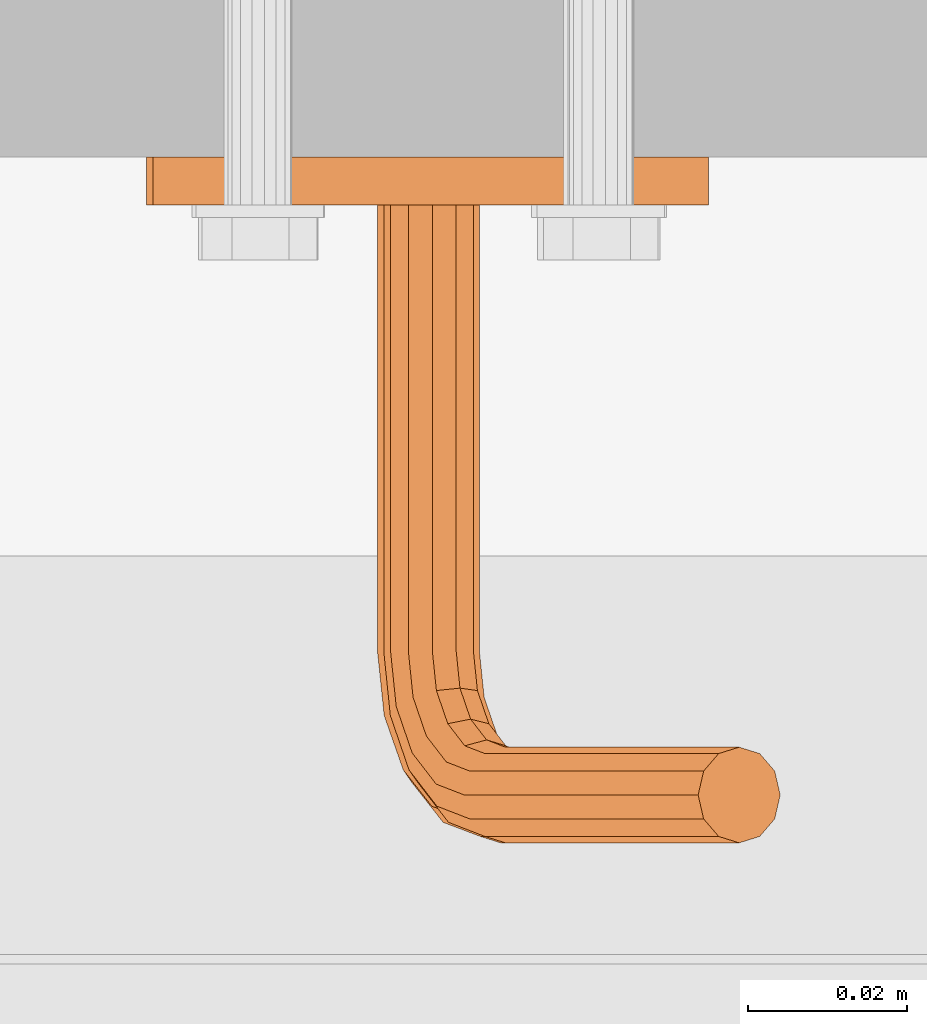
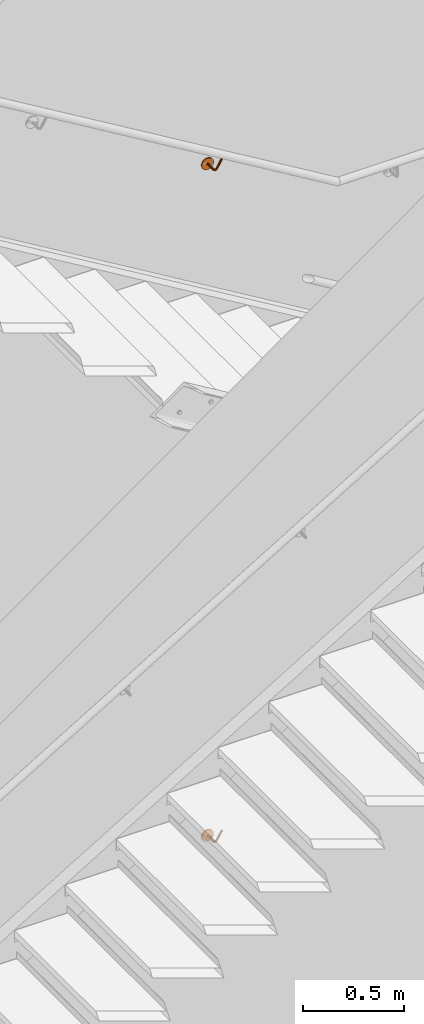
# One storey, part 394 of 410: 2 proxies.
"""IFC2X3 building model written with IfcOpenShell, lengths in millimetres."""

from ifc_helpers import new_model, entity, si_unit, converted_unit, origin_with_axes, place, context, project, spatial, faceted_brep, element, save


model = new_model("IFC2X3")

# Units and contexts
model_context = context("Model", 3, precision=1e-09, world=origin_with_axes())
ifc_project = project(units=[si_unit("LENGTHUNIT", "METRE", prefix="MILLI"), si_unit("AREAUNIT", "SQUARE_METRE"), si_unit("VOLUMEUNIT", "CUBIC_METRE"), converted_unit("PLANEANGLEUNIT", "DEGREE", entity("IfcPlaneAngleMeasure", 0.01745329), si_unit("PLANEANGLEUNIT", "RADIAN"), dimensions=[0, 0, 0, 0, 0, 0, 0])], contexts=[model_context])

# Site, building, storey
site_placement = place(None, origin_with_axes())
site = spatial("IfcSite", under=ifc_project, at=site_placement, Name="mKR Teilneubau & Sanierung BA1 - Ostfildern", CompositionType="ELEMENT")
building_placement = place(site_placement, origin_with_axes())
building = spatial("IfcBuilding", under=site, at=building_placement, Name="Struktur 1", CompositionType="ELEMENT")
storey_placement = place(building_placement, origin_with_axes())
storey = spatial("IfcBuildingStorey", under=building, at=storey_placement, Name="Default Storey", CompositionType="ELEMENT", Elevation=0.0)

# Proxies
proxy_1_placement = place(None, origin_with_axes())
element("IfcBuildingElementProxy", 1, at=proxy_1_placement, inside=storey, ObjectType="-", context=model_context, shape_type="Brep", body=[
    faceted_brep([(1047.922447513, 18620.000061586, 3064.657180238), (1047.922447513, 18614.000061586, 3064.657180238), (1046.341231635, 18614.000061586, 3063.127608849), (1046.341231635, 18620.000061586, 3063.127608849), (1102.913145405, 18614.000061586, 3063.367246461), (1096.244679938, 18614.000061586, 3072.762954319), (1086.88674897, 18614.000061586, 3079.484329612), (1075.853429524, 18614.000061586, 3082.803007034), (1064.340352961, 18614.000061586, 3082.359356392), (1053.595139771, 18614.000061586, 3078.201454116), (1044.782200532, 18614.000061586, 3070.779873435), (1038.856553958, 18614.000061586, 3060.898857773), (1036.4603358, 18614.000061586, 3049.629168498), (1037.853213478, 18614.000061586, 3038.192051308), (1042.884247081, 18614.000061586, 3027.826895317), (1051.008246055, 18614.000061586, 3019.656926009), (1061.344849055, 18614.000061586, 3014.567486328), (1072.773924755, 18614.000061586, 3013.110096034), (1084.056955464, 18614.000061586, 3015.442685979), (1093.97124973, 18614.000061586, 3021.31248385), (1101.442439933, 18614.000061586, 3030.083405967), (1105.660906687, 18614.000061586, 3040.804986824), (1106.169513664, 18614.000061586, 3052.315376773), (1090.802765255, 18614.000061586, 3038.941847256), (1092.936924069, 18614.000061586, 3039.475886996), (1095.052179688, 18614.000061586, 3038.871299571), (1096.581751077, 18614.000061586, 3037.290083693), (1097.115790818, 18614.000061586, 3035.155924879), (1096.511203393, 18614.000061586, 3033.04066926), (1094.929987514, 18614.000061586, 3031.511097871), (1092.7958287, 18614.000061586, 3030.97705813), (1090.680573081, 18614.000061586, 3031.581645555), (1089.151001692, 18614.000061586, 3033.162861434), (1088.616961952, 18614.000061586, 3035.297020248), (1089.221549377, 18614.000061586, 3037.412275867), (1050.056606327, 18614.000061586, 3065.191219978), (1052.171861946, 18614.000061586, 3064.586632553), (1053.701433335, 18614.000061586, 3063.005416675), (1054.235473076, 18614.000061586, 3060.871257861), (1053.630885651, 18614.000061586, 3058.756002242), (1052.049669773, 18614.000061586, 3057.226430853), (1049.915510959, 18614.000061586, 3056.692391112), (1047.80025534, 18614.000061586, 3057.296978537), (1046.27068395, 18614.000061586, 3058.878194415), (1045.73664421, 18614.000061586, 3061.01235323), (1050.056606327, 18620.000061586, 3065.191219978), (1072.773924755, 18620.000061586, 3013.110096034), (1061.344849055, 18620.000061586, 3014.567486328), (1051.008246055, 18620.000061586, 3019.656926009), (1042.884247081, 18620.000061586, 3027.826895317), (1037.853213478, 18620.000061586, 3038.192051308), (1036.4603358, 18620.000061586, 3049.629168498), (1038.856553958, 18620.000061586, 3060.898857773), (1044.782200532, 18620.000061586, 3070.779873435), (1053.595139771, 18620.000061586, 3078.201454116), (1064.340352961, 18620.000061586, 3082.359356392), (1075.853429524, 18620.000061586, 3082.803007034), (1086.88674897, 18620.000061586, 3079.484329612), (1096.244679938, 18620.000061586, 3072.762954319), (1102.913145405, 18620.000061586, 3063.367246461), (1106.169513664, 18620.000061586, 3052.315376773), (1105.660906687, 18620.000061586, 3040.804986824), (1101.442439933, 18620.000061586, 3030.083405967), (1093.97124973, 18620.000061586, 3021.31248385), (1084.056955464, 18620.000061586, 3015.442685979), (1088.616961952, 18620.000061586, 3035.297020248), (1089.151001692, 18620.000061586, 3033.162861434), (1090.680573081, 18620.000061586, 3031.581645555), (1092.7958287, 18620.000061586, 3030.97705813), (1094.929987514, 18620.000061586, 3031.511097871), (1096.511203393, 18620.000061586, 3033.04066926), (1097.115790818, 18620.000061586, 3035.155924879), (1096.581751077, 18620.000061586, 3037.290083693), (1095.052179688, 18620.000061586, 3038.871299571), (1092.936924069, 18620.000061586, 3039.475886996), (1090.802765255, 18620.000061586, 3038.941847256), (1089.221549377, 18620.000061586, 3037.412275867), (1045.73664421, 18620.000061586, 3061.01235323), (1046.27068395, 18620.000061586, 3058.878194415), (1047.80025534, 18620.000061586, 3057.296978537), (1049.915510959, 18620.000061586, 3056.692391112), (1052.049669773, 18620.000061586, 3057.226430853), (1053.630885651, 18620.000061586, 3058.756002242), (1054.235473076, 18620.000061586, 3060.871257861), (1053.701433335, 18620.000061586, 3063.005416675), (1052.171861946, 18620.000061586, 3064.586632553)], [[[0, 1, 2, 3]], [[4, 5, 6, 7, 8, 9, 10, 11, 12, 13, 14, 15, 16, 17, 18, 19, 20, 21, 22], [23, 24, 25, 26, 27, 28, 29, 30, 31, 32, 33, 34], [2, 1, 35, 36, 37, 38, 39, 40, 41, 42, 43, 44]], [[1, 0, 45, 35]], [[46, 47, 48, 49, 50, 51, 52, 53, 54, 55, 56, 57, 58, 59, 60, 61, 62, 63, 64], [65, 66, 67, 68, 69, 70, 71, 72, 73, 74, 75, 76], [0, 3, 77, 78, 79, 80, 81, 82, 83, 84, 85, 45]], [[3, 2, 44, 77]], [[10, 53, 52, 11]], [[77, 44, 43, 78]], [[35, 45, 85, 36]], [[53, 10, 9, 54]], [[78, 43, 42, 79]], [[11, 52, 51, 12]], [[36, 85, 84, 37]], [[8, 55, 54, 9]], [[79, 42, 41, 80]], [[55, 8, 7, 56]], [[50, 13, 12, 51]], [[37, 84, 83, 38]], [[13, 50, 49, 14]], [[80, 41, 40, 81]], [[38, 83, 82, 39]], [[56, 7, 6, 57]], [[81, 40, 39, 82]], [[14, 49, 48, 15]], [[57, 6, 5, 58]], [[34, 76, 75, 23]], [[15, 48, 47, 16]], [[76, 34, 33, 65]], [[23, 75, 74, 24]], [[58, 5, 4, 59]], [[16, 47, 46, 17]], [[65, 33, 32, 66]], [[24, 74, 73, 25]], [[59, 4, 22, 60]], [[17, 46, 64, 18]], [[66, 32, 31, 67]], [[25, 73, 72, 26]], [[60, 22, 21, 61]], [[18, 64, 63, 19]], [[67, 31, 30, 68]], [[20, 62, 61, 21]], [[26, 72, 71, 27]], [[62, 20, 19, 63]], [[68, 30, 29, 69]], [[27, 71, 70, 28]], [[69, 29, 28, 70]]]),
    faceted_brep([(1076.571855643, 18558.000061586, 3044.998299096), (1076.571855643, 18614.000061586, 3044.998299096), (1077.425390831, 18614.000061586, 3047.984542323), (1077.425390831, 18558.000061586, 3047.984542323), (1085.139990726, 18537.000061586, 3060.848637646), (1114.455470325, 18537.000061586, 3109.732199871), (1112.572036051, 18534.803909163, 3110.861695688), (1083.256556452, 18534.803909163, 3061.978133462), (1085.829375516, 18540.000061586, 3060.435213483), (1115.144855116, 18540.000061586, 3109.318775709), (1078.691167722, 18536.569611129, 3054.365347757), (1081.006841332, 18538.598591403, 3053.956611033), (1066.180982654, 18614.000061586, 3045.170805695), (1065.427044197, 18614.000061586, 3048.183735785), (1066.280579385, 18614.000061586, 3051.169979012), (1068.512884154, 18614.000061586, 3053.329373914), (1071.525814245, 18614.000061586, 3054.083312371), (1074.512057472, 18614.000061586, 3053.229777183), (1076.671452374, 18614.000061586, 3050.997472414), (1074.339550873, 18614.000061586, 3042.838904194), (1071.326620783, 18614.000061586, 3042.084965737), (1068.340377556, 18614.000061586, 3042.938500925), (1074.339550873, 18558.000061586, 3042.838904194), (1078.012629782, 18552.2598101, 3048.963763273), (1077.276542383, 18551.111759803, 3046.173364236), (1107.426397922, 18545.196214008, 3113.947535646), (1105.542963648, 18543.000061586, 3115.077031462), (1104.853578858, 18540.000061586, 3115.490455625), (1105.542963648, 18537.000061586, 3115.077031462), (1107.426397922, 18534.803909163, 3113.947535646), (1109.999216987, 18534.000061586, 3112.404615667), (1114.455470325, 18543.000061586, 3109.732199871), (1112.572036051, 18545.196214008, 3110.861695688), (1109.999216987, 18546.000061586, 3112.404615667), (1082.286676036, 18541.37023, 3054.527762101), (1077.502926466, 18543.150819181, 3048.113832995), (1079.283320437, 18545.272139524, 3049.51966664), (1076.671452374, 18558.000061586, 3050.997472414), (1075.161685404, 18549.963709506, 3044.209813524), (1080.683737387, 18534.000061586, 3063.521053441), (1085.139990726, 18543.000061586, 3060.848637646), (1075.96013808, 18535.826952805, 3055.644451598), (1074.820818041, 18541.59790491, 3047.911539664), (1079.684944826, 18547.393459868, 3051.752348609), (1077.172713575, 18553.100241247, 3051.833325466), (1071.326620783, 18558.000061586, 3042.084965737), (1082.187741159, 18544.141868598, 3055.925761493), (1074.512057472, 18558.000061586, 3053.229777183), (1072.234733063, 18549.123278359, 3043.599242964), (1078.110918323, 18534.803909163, 3065.06397342), (1083.256556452, 18545.196214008, 3061.978133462), (1073.545529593, 18536.569611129, 3057.451187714), (1071.955663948, 18541.029498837, 3048.966990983), (1078.600184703, 18548.946374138, 3054.213633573), (1074.981848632, 18553.407860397, 3054.013153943), (1068.340377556, 18558.000061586, 3042.938500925), (1080.736546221, 18546.170848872, 3057.776016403), (1076.227484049, 18537.000061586, 3066.193469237), (1071.525814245, 18558.000061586, 3054.083312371), (1069.279959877, 18548.815659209, 3044.505254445), (1080.683737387, 18546.000061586, 3063.521053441), (1072.094334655, 18538.598591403, 3059.301442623), (1069.675179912, 18541.59790491, 3050.997379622), (1076.319700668, 18549.514780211, 3056.244022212), (1072.027075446, 18553.100241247, 3054.919165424), (1066.180982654, 18558.000061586, 3045.170805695), (1078.321937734, 18546.913507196, 3059.582752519), (1075.538099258, 18540.000061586, 3066.606893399), (1068.512884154, 18558.000061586, 3053.329373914), (1067.089094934, 18549.123278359, 3046.685082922), (1078.110918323, 18545.196214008, 3065.06397342), (1076.227484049, 18543.000061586, 3066.193469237), (1071.995399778, 18541.37023, 3060.699442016), (1068.590419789, 18543.150819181, 3053.458664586), (1073.454546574, 18548.946374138, 3057.299473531), (1069.100123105, 18552.2598101, 3054.308594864), (1066.280579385, 18558.000061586, 3051.169979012), (1065.427044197, 18558.000061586, 3048.183735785), (1075.590908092, 18546.170848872, 3060.86185636), (1066.249178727, 18549.963709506, 3049.554645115), (1073.275234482, 18544.141868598, 3061.270593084), (1068.992044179, 18545.272139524, 3055.691346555), (1066.985266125, 18551.111759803, 3052.345044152), (1070.772438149, 18547.393459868, 3057.0971802)], [[[0, 1, 2, 3]], [[4, 5, 6, 7]], [[5, 4, 8, 9]], [[4, 7, 10, 11]], [[12, 13, 14, 15, 16, 17, 18, 2, 1, 19, 20, 21]], [[1, 0, 22, 19]], [[0, 3, 23, 24]], [[25, 26, 27, 28, 29, 30, 6, 5, 9, 31, 32, 33]], [[11, 34, 8, 4]], [[35, 36, 34, 11]], [[3, 2, 18, 37]], [[24, 38, 22, 0]], [[36, 35, 38, 24]], [[7, 6, 30, 39]], [[9, 8, 40, 31]], [[7, 39, 41, 10]], [[11, 10, 42, 35]], [[24, 23, 43, 36]], [[3, 37, 44, 23]], [[19, 22, 45, 20]], [[36, 43, 46, 34]], [[34, 46, 40, 8]], [[37, 18, 17, 47]], [[38, 48, 45, 22]], [[35, 42, 48, 38]], [[39, 30, 29, 49]], [[31, 40, 50, 32]], [[39, 49, 51, 41]], [[10, 41, 52, 42]], [[23, 44, 53, 43]], [[37, 47, 54, 44]], [[20, 45, 55, 21]], [[43, 53, 56, 46]], [[46, 56, 50, 40]], [[49, 29, 28, 57]], [[47, 17, 16, 58]], [[48, 59, 55, 45]], [[42, 52, 59, 48]], [[32, 50, 60, 33]], [[49, 57, 61, 51]], [[41, 51, 62, 52]], [[44, 54, 63, 53]], [[47, 58, 64, 54]], [[21, 55, 65, 12]], [[56, 66, 60, 50]], [[53, 63, 66, 56]], [[57, 28, 27, 67]], [[58, 16, 15, 68]], [[59, 69, 65, 55]], [[52, 62, 69, 59]], [[33, 60, 70, 25]], [[26, 71, 67, 27]], [[25, 70, 71, 26]], [[57, 67, 72, 61]], [[51, 61, 73, 62]], [[54, 64, 74, 63]], [[58, 68, 75, 64]], [[14, 76, 68, 15]], [[13, 77, 76, 14]], [[12, 65, 77, 13]], [[66, 78, 70, 60]], [[63, 74, 78, 66]], [[69, 79, 77, 65]], [[62, 73, 79, 69]], [[67, 71, 80, 72]], [[71, 70, 78, 80]], [[61, 72, 81, 73]], [[68, 76, 82, 75]], [[64, 75, 83, 74]], [[76, 77, 79, 82]], [[74, 83, 80, 78]], [[73, 81, 82, 79]], [[72, 80, 83, 81]], [[75, 82, 81, 83]]]),
])
proxy_2_placement = place(None, origin_with_axes())
element("IfcBuildingElementProxy", 2, at=proxy_2_placement, inside=storey, ObjectType="-", context=model_context, shape_type="Brep", body=[
    faceted_brep([(1047.339766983, 18620.000061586, -982.383966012), (1047.339766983, 18614.000061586, -982.383966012), (1045.739854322, 18614.000061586, -983.893969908), (1045.739854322, 18620.000061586, -983.893969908), (1102.310435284, 18614.000061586, -984.350284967), (1095.758058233, 18614.000061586, -974.873254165), (1086.483520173, 18614.000061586, -968.037268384), (1075.491861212, 18614.000061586, -964.583112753), (1063.974198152, 18614.000061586, -964.885098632), (1053.1786485, 18614.000061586, -968.910501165), (1044.275077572, 18614.000061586, -976.223105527), (1038.22832543, 18614.000061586, -986.030477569), (1035.693651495, 18614.000061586, -997.269836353), (1036.945727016, 18614.000061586, -1008.723222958), (1041.848870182, 18614.000061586, -1019.149485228), (1049.871749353, 18614.000061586, -1027.418775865), (1060.144961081, 18614.000061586, -1032.634988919), (1071.555243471, 18614.000061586, -1034.232866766), (1082.866115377, 18614.000061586, -1032.039254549), (1092.851868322, 18614.000061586, -1026.291864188), (1100.430391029, 18614.000061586, -1017.613514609), (1104.780432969, 18614.000061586, -1006.944639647), (1105.430599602, 18614.000061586, -995.44137745), (1049.480333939, 18614.000061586, -981.876220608), (1051.587992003, 18614.000061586, -982.506783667), (1053.0979959, 18614.000061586, -984.106696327), (1053.605741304, 18614.000061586, -986.247263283), (1052.975178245, 18614.000061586, -988.354921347), (1051.375265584, 18614.000061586, -989.864925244), (1049.234698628, 18614.000061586, -990.372670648), (1047.127040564, 18614.000061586, -989.742107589), (1045.617036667, 18614.000061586, -988.142194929), (1045.109291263, 18614.000061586, -986.001627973), (1089.900495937, 18614.000061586, -1008.624856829), (1092.041062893, 18614.000061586, -1008.117111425), (1094.148720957, 18614.000061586, -1008.747674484), (1095.658724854, 18614.000061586, -1010.347587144), (1096.166470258, 18614.000061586, -1012.4881541), (1095.535907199, 18614.000061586, -1014.595812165), (1093.935994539, 18614.000061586, -1016.105816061), (1091.795427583, 18614.000061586, -1016.613561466), (1089.687769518, 18614.000061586, -1015.982998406), (1088.177765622, 18614.000061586, -1014.383085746), (1087.670020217, 18614.000061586, -1012.24251879), (1088.300583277, 18614.000061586, -1010.134860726), (1049.480333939, 18620.000061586, -981.876220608), (1071.555243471, 18620.000061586, -1034.232866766), (1060.144961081, 18620.000061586, -1032.634988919), (1049.871749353, 18620.000061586, -1027.418775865), (1041.848870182, 18620.000061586, -1019.149485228), (1036.945727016, 18620.000061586, -1008.723222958), (1035.693651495, 18620.000061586, -997.269836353), (1038.22832543, 18620.000061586, -986.030477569), (1044.275077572, 18620.000061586, -976.223105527), (1053.1786485, 18620.000061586, -968.910501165), (1063.974198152, 18620.000061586, -964.885098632), (1075.491861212, 18620.000061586, -964.583112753), (1086.483520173, 18620.000061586, -968.037268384), (1095.758058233, 18620.000061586, -974.873254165), (1102.310435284, 18620.000061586, -984.350284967), (1105.430599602, 18620.000061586, -995.44137745), (1104.780432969, 18620.000061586, -1006.944639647), (1100.430391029, 18620.000061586, -1017.613514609), (1092.851868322, 18620.000061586, -1026.291864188), (1082.866115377, 18620.000061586, -1032.039254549), (1087.670020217, 18620.000061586, -1012.24251879), (1088.177765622, 18620.000061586, -1014.383085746), (1089.687769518, 18620.000061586, -1015.982998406), (1091.795427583, 18620.000061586, -1016.613561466), (1093.935994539, 18620.000061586, -1016.105816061), (1095.535907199, 18620.000061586, -1014.595812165), (1096.166470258, 18620.000061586, -1012.4881541), (1095.658724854, 18620.000061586, -1010.347587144), (1094.148720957, 18620.000061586, -1008.747674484), (1092.041062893, 18620.000061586, -1008.117111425), (1089.900495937, 18620.000061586, -1008.624856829), (1088.300583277, 18620.000061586, -1010.134860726), (1045.109291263, 18620.000061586, -986.001627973), (1045.617036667, 18620.000061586, -988.142194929), (1047.127040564, 18620.000061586, -989.742107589), (1049.234698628, 18620.000061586, -990.372670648), (1051.375265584, 18620.000061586, -989.864925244), (1052.975178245, 18620.000061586, -988.354921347), (1053.605741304, 18620.000061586, -986.247263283), (1053.0979959, 18620.000061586, -984.106696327), (1051.587992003, 18620.000061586, -982.506783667)], [[[0, 1, 2, 3]], [[4, 5, 6, 7, 8, 9, 10, 11, 12, 13, 14, 15, 16, 17, 18, 19, 20, 21, 22], [2, 1, 23, 24, 25, 26, 27, 28, 29, 30, 31, 32], [33, 34, 35, 36, 37, 38, 39, 40, 41, 42, 43, 44]], [[1, 0, 45, 23]], [[46, 47, 48, 49, 50, 51, 52, 53, 54, 55, 56, 57, 58, 59, 60, 61, 62, 63, 64], [65, 66, 67, 68, 69, 70, 71, 72, 73, 74, 75, 76], [0, 3, 77, 78, 79, 80, 81, 82, 83, 84, 85, 45]], [[3, 2, 32, 77]], [[10, 53, 52, 11]], [[77, 32, 31, 78]], [[23, 45, 85, 24]], [[53, 10, 9, 54]], [[78, 31, 30, 79]], [[11, 52, 51, 12]], [[24, 85, 84, 25]], [[8, 55, 54, 9]], [[79, 30, 29, 80]], [[55, 8, 7, 56]], [[50, 13, 12, 51]], [[25, 84, 83, 26]], [[13, 50, 49, 14]], [[80, 29, 28, 81]], [[26, 83, 82, 27]], [[56, 7, 6, 57]], [[81, 28, 27, 82]], [[14, 49, 48, 15]], [[57, 6, 5, 58]], [[44, 76, 75, 33]], [[15, 48, 47, 16]], [[76, 44, 43, 65]], [[33, 75, 74, 34]], [[58, 5, 4, 59]], [[16, 47, 46, 17]], [[65, 43, 42, 66]], [[34, 74, 73, 35]], [[59, 4, 22, 60]], [[17, 46, 64, 18]], [[66, 42, 41, 67]], [[35, 73, 72, 36]], [[60, 22, 21, 61]], [[18, 64, 63, 19]], [[67, 41, 40, 68]], [[20, 62, 61, 21]], [[36, 72, 71, 37]], [[62, 20, 19, 63]], [[68, 40, 39, 69]], [[37, 71, 70, 38]], [[69, 39, 38, 70]]]),
    faceted_brep([(1075.745168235, 18558.000061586, -1002.393797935), (1075.745168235, 18614.000061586, -1002.393797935), (1076.635374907, 18614.000061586, -999.418280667), (1076.635374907, 18558.000061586, -999.418280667), (1084.507642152, 18537.000061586, -986.650061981), (1114.422257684, 18537.000061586, -938.130830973), (1112.552860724, 18534.803909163, -936.978251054), (1082.638245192, 18534.803909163, -985.497482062), (1085.191888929, 18540.000061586, -987.071935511), (1115.106504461, 18540.000061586, -938.552704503), (1077.979551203, 18536.569611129, -993.05352936), (1080.290021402, 18538.598591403, -993.490722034), (1065.357203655, 18614.000061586, -1002.093478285), (1064.640386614, 18614.000061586, -999.071501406), (1065.530593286, 18614.000061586, -996.095984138), (1067.789293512, 18614.000061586, -993.964213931), (1070.811270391, 18614.000061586, -993.24739689), (1073.786787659, 18614.000061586, -994.137603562), (1075.918557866, 18614.000061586, -996.396303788), (1073.486468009, 18614.000061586, -1004.525568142), (1070.46449113, 18614.000061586, -1005.242385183), (1067.488973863, 18614.000061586, -1004.352178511), (1073.486468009, 18558.000061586, -1004.525568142), (1077.23461557, 18552.2598101, -998.446357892), (1076.464257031, 18551.111759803, -1001.227490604), (1107.445573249, 18545.196214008, -933.829344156), (1105.576176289, 18543.000061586, -932.676764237), (1104.891929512, 18540.000061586, -932.254890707), (1105.576176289, 18537.000061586, -932.676764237), (1107.445573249, 18534.803909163, -933.829344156), (1109.999216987, 18534.000061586, -935.403797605), (1114.422257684, 18543.000061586, -938.130830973), (1112.552860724, 18545.196214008, -936.978251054), (1109.999216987, 18546.000061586, -935.403797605), (1081.576785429, 18541.37023, -992.935358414), (1076.714495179, 18543.150819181, -999.289953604), (1078.512048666, 18545.272139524, -997.906128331), (1075.918557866, 18558.000061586, -996.396303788), (1074.325404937, 18549.963709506, -1003.164876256), (1080.084601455, 18534.000061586, -983.923028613), (1084.507642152, 18543.000061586, -986.650061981), (1075.264463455, 18535.826952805, -991.740925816), (1074.030101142, 18541.59790491, -999.459236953), (1078.9411086, 18547.393459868, -995.678555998), (1076.430063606, 18553.100241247, -995.566680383), (1070.46449113, 18558.000061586, -1005.242385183), (1081.495055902, 18544.141868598, -991.536247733), (1073.786787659, 18558.000061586, -994.137603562), (1071.39116298, 18549.123278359, -1003.739393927), (1077.530957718, 18534.803909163, -982.348575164), (1082.638245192, 18545.196214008, -985.497482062), (1072.872263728, 18536.569611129, -989.904622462), (1071.178147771, 18541.029498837, -998.36861904), (1077.886708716, 18548.946374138, -993.204112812), (1074.266180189, 18553.407860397, -993.360065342), (1067.488973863, 18558.000061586, -1004.352178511), (1080.066732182, 18546.170848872, -989.668280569), (1075.661560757, 18537.000061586, -981.195995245), (1070.811270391, 18558.000061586, -993.24739689), (1068.447758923, 18548.815659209, -1002.79710207), (1080.084601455, 18546.000061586, -983.923028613), (1071.443940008, 18538.598591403, -988.036655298), (1068.922813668, 18541.59790491, -996.310330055), (1075.631374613, 18549.514780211, -991.145823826), (1071.322776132, 18553.100241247, -992.417773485), (1065.357203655, 18558.000061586, -1002.093478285), (1077.674532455, 18546.913507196, -987.831977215), (1074.97731398, 18540.000061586, -980.774121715), (1067.789293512, 18558.000061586, -993.964213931), (1066.283875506, 18549.123278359, -1000.590487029), (1077.530957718, 18545.196214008, -982.348575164), (1075.661560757, 18543.000061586, -981.195995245), (1071.36221048, 18541.37023, -986.637544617), (1067.868413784, 18543.150819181, -993.835886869), (1072.779421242, 18548.946374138, -990.055205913), (1068.388534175, 18552.2598101, -992.992291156), (1065.530593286, 18558.000061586, -996.095984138), (1064.640386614, 18558.000061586, -999.071501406), (1074.959444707, 18546.170848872, -986.519373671), (1065.479323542, 18549.963709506, -997.71080952), (1072.648974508, 18544.141868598, -986.082180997), (1068.297473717, 18545.272139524, -991.608314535), (1066.249682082, 18551.111759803, -994.929676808), (1070.095027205, 18547.393459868, -990.224489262)], [[[0, 1, 2, 3]], [[4, 5, 6, 7]], [[5, 4, 8, 9]], [[4, 7, 10, 11]], [[12, 13, 14, 15, 16, 17, 18, 2, 1, 19, 20, 21]], [[1, 0, 22, 19]], [[0, 3, 23, 24]], [[25, 26, 27, 28, 29, 30, 6, 5, 9, 31, 32, 33]], [[11, 34, 8, 4]], [[35, 36, 34, 11]], [[3, 2, 18, 37]], [[24, 38, 22, 0]], [[36, 35, 38, 24]], [[7, 6, 30, 39]], [[9, 8, 40, 31]], [[7, 39, 41, 10]], [[11, 10, 42, 35]], [[24, 23, 43, 36]], [[3, 37, 44, 23]], [[19, 22, 45, 20]], [[36, 43, 46, 34]], [[34, 46, 40, 8]], [[37, 18, 17, 47]], [[38, 48, 45, 22]], [[35, 42, 48, 38]], [[39, 30, 29, 49]], [[31, 40, 50, 32]], [[39, 49, 51, 41]], [[10, 41, 52, 42]], [[23, 44, 53, 43]], [[37, 47, 54, 44]], [[20, 45, 55, 21]], [[43, 53, 56, 46]], [[46, 56, 50, 40]], [[49, 29, 28, 57]], [[47, 17, 16, 58]], [[48, 59, 55, 45]], [[42, 52, 59, 48]], [[32, 50, 60, 33]], [[49, 57, 61, 51]], [[41, 51, 62, 52]], [[44, 54, 63, 53]], [[47, 58, 64, 54]], [[21, 55, 65, 12]], [[56, 66, 60, 50]], [[53, 63, 66, 56]], [[57, 28, 27, 67]], [[58, 16, 15, 68]], [[59, 69, 65, 55]], [[52, 62, 69, 59]], [[33, 60, 70, 25]], [[26, 71, 67, 27]], [[25, 70, 71, 26]], [[57, 67, 72, 61]], [[51, 61, 73, 62]], [[54, 64, 74, 63]], [[58, 68, 75, 64]], [[14, 76, 68, 15]], [[13, 77, 76, 14]], [[12, 65, 77, 13]], [[66, 78, 70, 60]], [[63, 74, 78, 66]], [[69, 79, 77, 65]], [[62, 73, 79, 69]], [[67, 71, 80, 72]], [[71, 70, 78, 80]], [[61, 72, 81, 73]], [[68, 76, 82, 75]], [[64, 75, 83, 74]], [[76, 77, 79, 82]], [[74, 83, 80, 78]], [[73, 81, 82, 79]], [[72, 80, 83, 81]], [[75, 82, 81, 83]]]),
])

save(model, "model.ifc")
